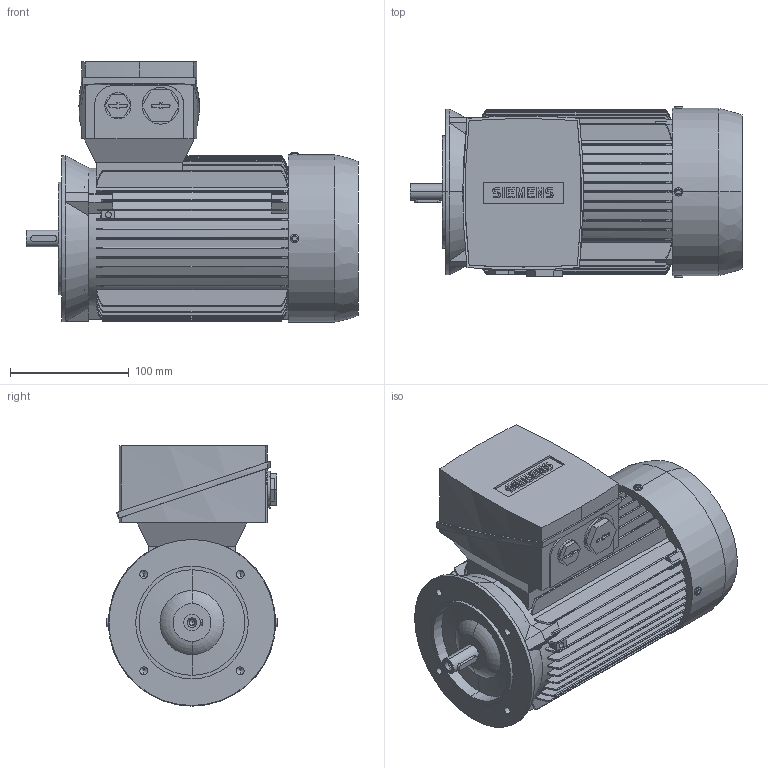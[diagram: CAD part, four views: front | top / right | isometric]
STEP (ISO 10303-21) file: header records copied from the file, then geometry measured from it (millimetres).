
FILE_DESCRIPTION(('STEP AP214'),'1');
FILE_NAME('cctmp_BAB545DF-7A5B-4013-A2B3-92FDB9742DF7_2021_11_4_17_48_40_646..stp','2021-11-04T16:48:41',('SIEMENS A&D'),('CADClick - www.CADClick.com'),'Spatial InterOp 3D',' ','unknown authorization');
FILE_SCHEMA(('AUTOMOTIVE_DESIGN'));
Length unit declared in the file: millimetre
Products named in the file (1): 2021_11_04__17-48-40-630
Bounding box: 280 x 145 x 219.5 mm (x, y, z)
Volume: 4130830 mm3; surface area: 334460.1 mm2
Topology: 1 solids, 1 shells, 691 faces, 1838 edges, 1205 vertices
Faces by surface type: plane 406, cylinder 163, torus 90, cone 32
Entity records: 31698 total; most frequent: CARTESIAN_POINT 9321, ORIENTED_EDGE 3656, DIRECTION 3259, EDGE_CURVE 1828, VERTEX_POINT 1205, AXIS2_PLACEMENT_3D 1100, LINE 1059, VECTOR 1059
